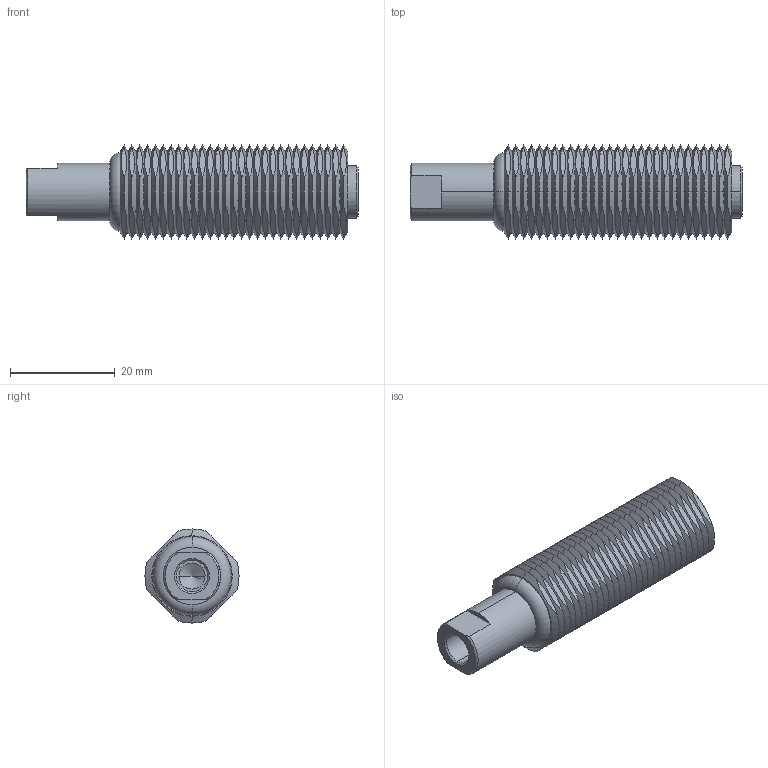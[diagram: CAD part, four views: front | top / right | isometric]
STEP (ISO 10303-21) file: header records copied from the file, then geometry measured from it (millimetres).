
FILE_DESCRIPTION (( 'STEP AP203' ), '1' );
FILE_NAME ('32790.W0182.step', '2013-07-26T15:10:54', ( 'Wixroyd' ), ( 'Wixroyd' ), 'SwSTEP 2.0', 'SolidWorks 2009', '' );
FILE_SCHEMA (( 'CONFIG_CONTROL_DESIGN' ));
Length unit declared in the file: millimetre
Products named in the file (3): 32790.W0182; Part1_32790.W0182; Part2_32790.W0182
Assembly tree (2 placements, depth 2):
  32790.W0182
    Part2_32790.W0182
    Part1_32790.W0182
Bounding box: 63.5 x 18 x 18 mm (x, y, z)
Volume: 9892.7 mm3; surface area: 8455.6 mm2
Topology: 2 solids, 2 shells, 274 faces, 676 edges, 408 vertices
Faces by surface type: cone 128, plane 128, cylinder 16, torus 2
Entity records: 10423 total; most frequent: CARTESIAN_POINT 3923, ORIENTED_EDGE 1344, DIRECTION 1280, EDGE_CURVE 672, AXIS2_PLACEMENT_3D 565, VERTEX_POINT 408, CIRCLE 286, EDGE_LOOP 282
